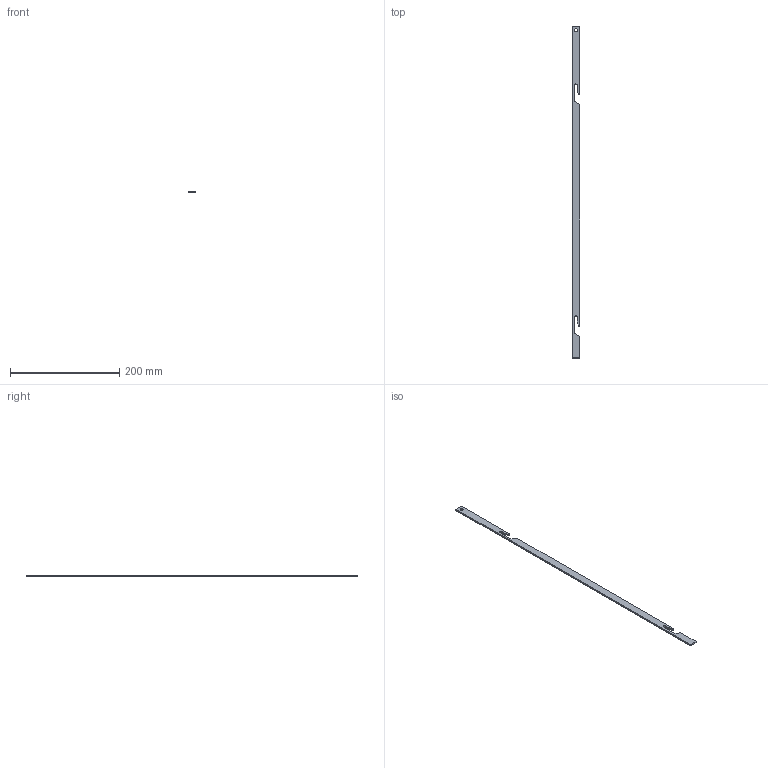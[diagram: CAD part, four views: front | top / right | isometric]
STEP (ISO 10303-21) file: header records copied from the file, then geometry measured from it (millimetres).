
FILE_DESCRIPTION (( 'STEP AP214' ), '1' );
FILE_NAME ('P490-601.STEP', '2016-09-08T08:20:30', ( '' ), ( '' ), 'SwSTEP 2.0', 'SolidWorks 2015', '' );
FILE_SCHEMA (( 'AUTOMOTIVE_DESIGN' ));
Length unit declared in the file: millimetre
Products named in the file (1): P490-601
Bounding box: 14 x 608.5 x 3 mm (x, y, z)
Volume: 24030.2 mm3; surface area: 20105.7 mm2
Topology: 1 solids, 1 shells, 22 faces, 60 edges, 40 vertices
Faces by surface type: plane 12, cylinder 10
Entity records: 742 total; most frequent: DIRECTION 126, CARTESIAN_POINT 123, ORIENTED_EDGE 120, EDGE_CURVE 60, AXIS2_PLACEMENT_3D 43, VECTOR 40, LINE 40, VERTEX_POINT 40
